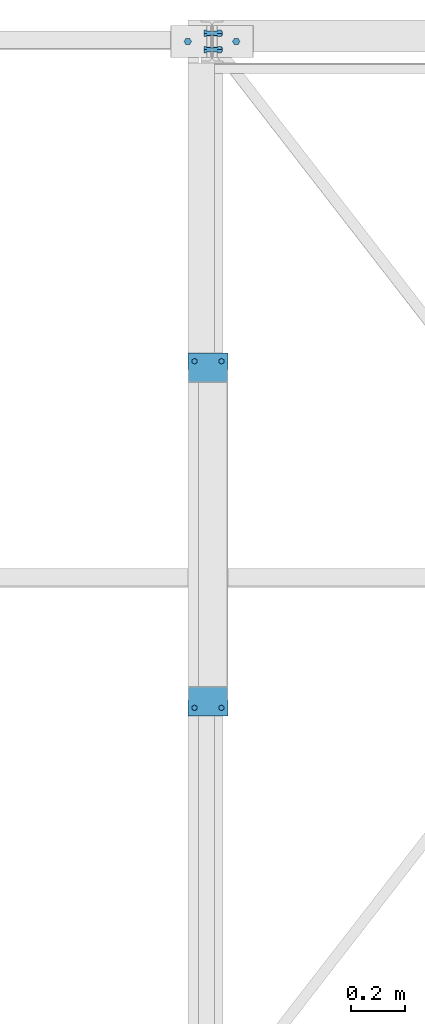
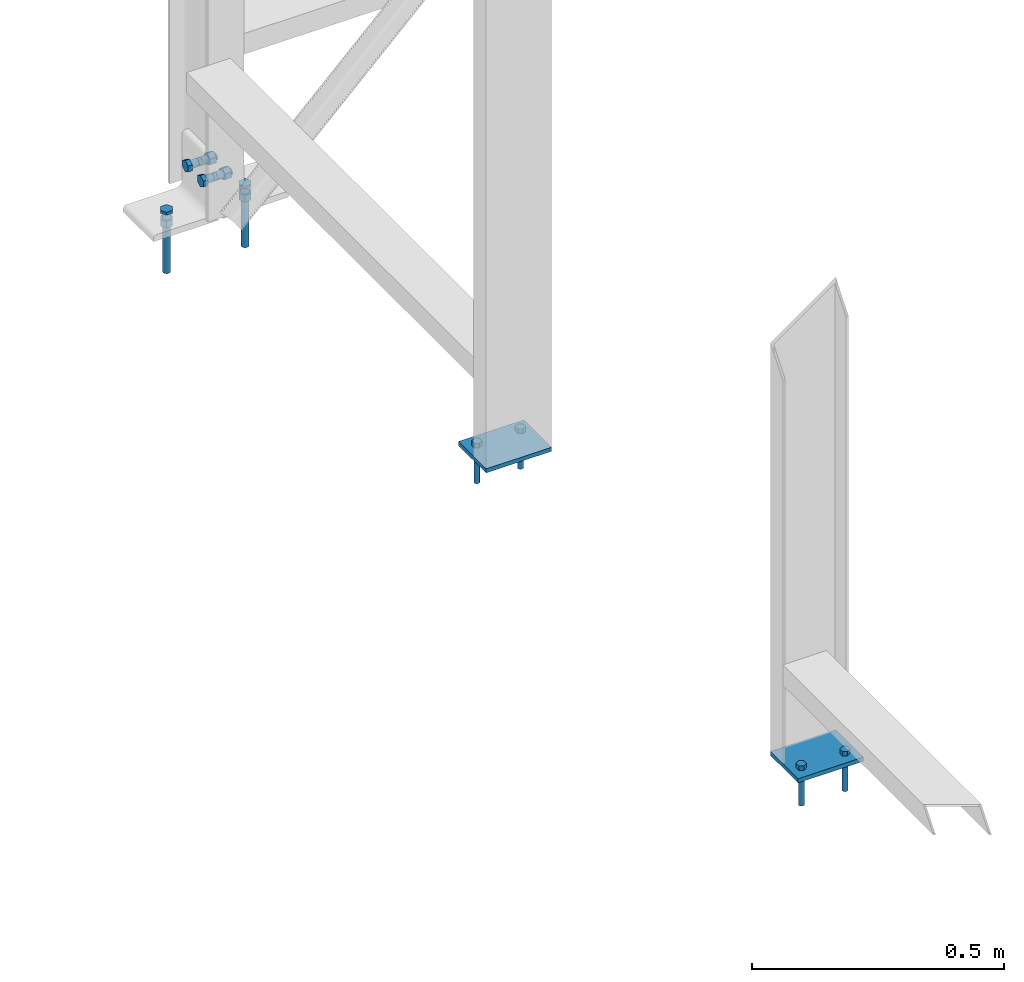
# One storey, part 85 of 123: 5 mechanical fasteners, 2 discrete accessories, 4 elements without a shape of their own.
"""IFC2X3 building model written with IfcOpenShell, lengths in millimetres."""

from ifc_helpers import new_model, si_unit, frame, origin_with_axes, origin_2d_with_axis, place, context, subcontext, project, spatial, polyline, circle, outline, extrude, source, transform, mapped, material, type_object, element, aggregate, save


model = new_model("IFC2X3")

# Units and contexts
model_context = context("Model", 3, precision=1e-05, world=origin_with_axes())
body_context = subcontext(model_context, "Body", "Model", "MODEL_VIEW")
ifc_project = project(units=[si_unit("LENGTHUNIT", "METRE", prefix="MILLI"), si_unit("AREAUNIT", "SQUARE_METRE"), si_unit("VOLUMEUNIT", "CUBIC_METRE"), si_unit("MASSUNIT", "GRAM", prefix="KILO"), si_unit("TIMEUNIT", "SECOND"), si_unit("PLANEANGLEUNIT", "RADIAN"), si_unit("SOLIDANGLEUNIT", "STERADIAN"), si_unit("THERMODYNAMICTEMPERATUREUNIT", "DEGREE_CELSIUS"), si_unit("LUMINOUSINTENSITYUNIT", "LUMEN")], contexts=[model_context])

# Site, building, storey
site_placement = place(None, origin_with_axes())
site = spatial("IfcSite", under=ifc_project, at=site_placement, Name="Undefined", CompositionType="ELEMENT")
building_placement = place(site_placement, origin_with_axes())
building = spatial("IfcBuilding", under=site, at=building_placement, Name="Undefined", CompositionType="ELEMENT")
storey_placement = place(building_placement, origin_with_axes())
storey = spatial("IfcBuildingStorey", under=building, at=storey_placement, Name="Undefined", CompositionType="ELEMENT", Elevation=0.0)

# Assembly, discrete accessory
assembly_1_placement = place(storey_placement, origin_with_axes())
assembly_1 = element("IfcElementAssembly", 1, at=assembly_1_placement, inside=storey, Name="Steel Assembly", AssemblyPlace="NOTDEFINED", PredefinedType="RIGID_FRAME")
ifc_material_1 = material(Name="STEEL/S235-E24")
discrete_accessory_type_1 = type_object("IfcDiscreteAccessoryType", Name="PLATINE")
discrete_accessory_1_placement = place(assembly_1_placement, frame((28914.9999688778, 27970.0000146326, -95.0), z_axis=(0.0, 0.0, -1.0), x_axis=(0.0, 1.0, 0.0)))
discrete_accessory_1 = element("IfcDiscreteAccessory", 2, at=discrete_accessory_1_placement, type_object=discrete_accessory_type_1, material=ifc_material_1, Name="PLATINE", ObjectType="PL10*150", context=body_context, shape_type="SweptSolid", body=[
    extrude(outline(polyline([(0.0, -75.0), (0.0, 75.0), (110.0, 75.0), (110.0, -75.0), (0.0, -75.0)])), frame((0.0, 0.0, -5.0), z_axis=(0.0, 0.0, 1.0), x_axis=(1.0, 0.0, 0.0)), (0.0, 0.0, 1.0), 10.0),
])

assembly_2_placement = place(storey_placement, origin_with_axes())
assembly_2 = element("IfcElementAssembly", 3, at=assembly_2_placement, inside=storey, Name="Steel Assembly", AssemblyPlace="NOTDEFINED", PredefinedType="RIGID_FRAME")
discrete_accessory_2_placement = place(assembly_2_placement, frame((28914.9999688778, 26840.0000217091, -95.0), z_axis=(0.0, 0.0, 1.0), x_axis=(0.0, -1.0, 0.0)))
discrete_accessory_2 = element("IfcDiscreteAccessory", 4, at=discrete_accessory_2_placement, type_object=discrete_accessory_type_1, material=ifc_material_1, Name="PLATINE", ObjectType="PL10*150", context=body_context, shape_type="SweptSolid", body=[
    extrude(outline(polyline([(110.0, -75.0), (0.0, -75.0), (0.0, 75.0), (110.0, 75.0), (110.0, -75.0)])), frame((0.0, 0.0, -5.0), z_axis=(0.0, 0.0, 1.0), x_axis=(1.0, 0.0, 0.0)), (0.0, 0.0, 1.0), 10.0),
])

# Mechanical fastener
ifc_material_2 = material(Name="INOX_A4")
discrete_accessory_type_2 = type_object("IfcDiscreteAccessoryType", Name="Bolt assembly")
shared_shape_1 = source(origin_with_axes(), body_context, "Body", "SweptSolid", [
    extrude(circle(Radius=7.0, at=origin_2d_with_axis()), frame((0.0, -10.0, 0.0), z_axis=(0.0, 1.0, 0.0), x_axis=(1.0, 0.0, 0.0)), (0.0, 0.0, 1.0), 10.1),
    extrude(outline(polyline([(10.39230484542, 0.0), (5.19615242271, 9.00000000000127), (-5.19615242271, 9.00000000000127), (-10.39230484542, 0.0), (-5.19615242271, -9.00000000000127), (5.19615242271, -9.00000000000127), (10.39230484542, 0.0)])), frame((0.0, -20.8000001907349, 0.0), z_axis=(0.0, 1.0, 0.0), x_axis=(1.0, 0.0, 0.0)), (0.0, 0.0, 1.0), 10.8),
    extrude(circle(Radius=6.0, at=origin_2d_with_axis()), frame((0.0, -10.0, 0.0), z_axis=(0.0, 1.0, 0.0), x_axis=(1.0, 0.0, 0.0)), (0.0, 0.0, 1.0), 89.2),
    extrude(outline(polyline([(10.96965511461, 0.0), (5.484827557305, 9.50000000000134), (-5.484827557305, 9.50000000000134), (-10.96965511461, 0.0), (-5.484827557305, -9.50000000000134), (5.484827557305, -9.50000000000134), (10.96965511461, 0.0)])), frame((0.0, 0.0, 0.0), z_axis=(0.0, 1.0, 0.0), x_axis=(1.0, 0.0, 0.0)), (0.0, 0.0, 1.0), 12.0),
])
mechanical_fastener_1_placement = place(assembly_1_placement, frame((28914.9999688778, 28050.0000146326, -100.0), z_axis=(1.0, 0.0, 0.0), x_axis=(0.0, -1.0, 0.0)))
mechanical_fastener_1 = element("IfcMechanicalFastener", 5, at=mechanical_fastener_1_placement, type_object=discrete_accessory_type_2, material=ifc_material_2, Name="Bolt assembly", NominalDiameter=12.0, NominalLength=89.1999969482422, context=body_context, shape_type="MappedRepresentation", body=[
    mapped(shared_shape_1, transform((0.0, 0.0, 50.0))),
    mapped(shared_shape_1, transform((0.0, 0.0, -50.0))),
])

aggregate(assembly_1, [mechanical_fastener_1, discrete_accessory_1])

mechanical_fastener_2_placement = place(assembly_2_placement, frame((28914.9999688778, 26760.0000217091, -100.0), z_axis=(-1.0, 0.0, 0.0), x_axis=(0.0, 1.0, 0.0)))
mechanical_fastener_2 = element("IfcMechanicalFastener", 6, at=mechanical_fastener_2_placement, type_object=discrete_accessory_type_2, material=ifc_material_2, Name="Bolt assembly", NominalDiameter=12.0, NominalLength=89.1999969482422, context=body_context, shape_type="MappedRepresentation", body=[
    mapped(shared_shape_1, transform((0.0, 0.0, -50.0))),
    mapped(shared_shape_1, transform((0.0, 0.0, 50.0))),
])

aggregate(assembly_2, [mechanical_fastener_2, discrete_accessory_2])

# Assembly, mechanical fastener
assembly_3_placement = place(storey_placement, origin_with_axes())
assembly_3 = element("IfcElementAssembly", 7, at=assembly_3_placement, inside=storey, Name="Steel Assembly", AssemblyPlace="NOTDEFINED", PredefinedType="RIGID_FRAME")
shared_shape_2 = source(origin_with_axes(), body_context, "Body", "SweptSolid", [
    extrude(circle(Radius=9.0, at=origin_2d_with_axis()), frame((0.0, -15.0, 0.0), z_axis=(0.0, 1.0, 0.0), x_axis=(1.0, 0.0, 0.0)), (0.0, 0.0, 1.0), 15.1),
    extrude(outline(polyline([(13.85640646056, 0.0), (6.92820323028, 12.0000000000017), (-6.92820323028, 12.0000000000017), (-13.85640646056, 0.0), (-6.92820323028, -12.0000000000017), (6.92820323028, -12.0000000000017), (13.85640646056, 0.0)])), frame((0.0, -21.8000001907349, 0.0), z_axis=(0.0, 1.0, 0.0), x_axis=(1.0, 0.0, 0.0)), (0.0, 0.0, 1.0), 6.8),
    extrude(circle(Radius=8.0, at=origin_2d_with_axis()), frame((0.0, -15.0, 0.0), z_axis=(0.0, 1.0, 0.0), x_axis=(1.0, 0.0, 0.0)), (0.0, 0.0, 1.0), 146.2),
    extrude(outline(polyline([(13.85640646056, 0.0), (6.92820323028, 12.0000000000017), (-6.92820323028, 12.0000000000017), (-13.85640646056, 0.0), (-6.92820323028, -12.0000000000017), (6.92820323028, -12.0000000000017), (13.85640646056, 0.0)])), frame((0.0, 0.0, 0.0), z_axis=(0.0, 1.0, 0.0), x_axis=(1.0, 0.0, 0.0)), (0.0, 0.0, 1.0), 16.0),
])
mechanical_fastener_3_placement = place(assembly_3_placement, frame((28840.0000297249, 29239.9999987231, -250.0), z_axis=(0.0, 1.0, 0.0), x_axis=(1.0, 0.0, 0.0)))
mechanical_fastener_3 = element("IfcMechanicalFastener", 8, at=mechanical_fastener_3_placement, type_object=discrete_accessory_type_2, material=ifc_material_2, Name="Bolt assembly", NominalDiameter=16.0, NominalLength=146.199996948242, context=body_context, shape_type="MappedRepresentation", body=[
    mapped(shared_shape_2, transform((0.0, 0.0, 0.0))),
])

assembly_4_placement = place(storey_placement, origin_with_axes())
assembly_4 = element("IfcElementAssembly", 9, at=assembly_4_placement, inside=storey, Name="Steel Assembly", AssemblyPlace="NOTDEFINED", PredefinedType="RIGID_FRAME")
mechanical_fastener_4_placement = place(assembly_4_placement, frame((29019.9999702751, 29239.9999987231, -250.0), z_axis=(0.0, -1.0, 0.0), x_axis=(-1.0, 0.0, 0.0)))
mechanical_fastener_4 = element("IfcMechanicalFastener", 10, at=mechanical_fastener_4_placement, type_object=discrete_accessory_type_2, material=ifc_material_2, Name="Bolt assembly", NominalDiameter=16.0, NominalLength=146.199996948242, context=body_context, shape_type="MappedRepresentation", body=[
    mapped(shared_shape_2, transform((0.0, 0.0, 0.0))),
])
aggregate(assembly_4, [mechanical_fastener_4])

# Mechanical fastener
ifc_material_3 = material(Name="8.8-G")
shared_shape_3 = source(origin_with_axes(), body_context, "Body", "SweptSolid", [
    extrude(circle(Radius=9.0, at=origin_2d_with_axis()), frame((0.0, -2.50006083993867, 0.0), z_axis=(0.0, 1.0, 0.0), x_axis=(1.0, 0.0, 0.0)), (0.0, 0.0, 1.0), 5.0),
    extrude(circle(Radius=9.0, at=origin_2d_with_axis()), frame((0.0, -19.9, 0.0), z_axis=(0.0, 1.0, 0.0), x_axis=(1.0, 0.0, 0.0)), (0.0, 0.0, 1.0), 15.0),
    extrude(circle(Radius=9.0, at=origin_2d_with_axis()), frame((0.0, 4.89994055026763, 0.0), z_axis=(0.0, 1.0, 0.0), x_axis=(1.0, 0.0, 0.0)), (0.0, 0.0, 1.0), 15.1),
    extrude(outline(polyline([(13.85640646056, 0.0), (6.92820323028, 12.0000000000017), (-6.92820323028, 12.0000000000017), (-13.85640646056, 0.0), (-6.92820323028, -12.0000000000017), (6.92820323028, -12.0000000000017), (13.85640646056, 0.0)])), frame((0.0, -30.0, 0.0), z_axis=(0.0, 1.0, 0.0), x_axis=(1.0, 0.0, 0.0)), (0.0, 0.0, 1.0), 10.0),
    extrude(circle(Radius=8.0, at=origin_2d_with_axis()), frame((0.0, -20.0, 0.0), z_axis=(0.0, 1.0, 0.0), x_axis=(1.0, 0.0, 0.0)), (0.0, 0.0, 1.0), 60.0),
    extrude(outline(polyline([(13.85640646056, 0.0), (6.92820323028, 12.0000000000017), (-6.92820323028, 12.0000000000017), (-13.85640646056, 0.0), (-6.92820323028, -12.0000000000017), (6.92820323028, -12.0000000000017), (13.85640646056, 0.0)])), frame((0.0, 19.9999405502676, 0.0), z_axis=(0.0, 1.0, 0.0), x_axis=(1.0, 0.0, 0.0)), (0.0, 0.0, 1.0), 14.8),
])
mechanical_fastener_5_placement = place(assembly_3_placement, frame((28930.0000297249, 29239.9999987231, -165.0), z_axis=(0.0, -1.0, 0.0), x_axis=(0.0, 0.0, -1.0)))
mechanical_fastener_5 = element("IfcMechanicalFastener", 11, at=mechanical_fastener_5_placement, type_object=discrete_accessory_type_2, material=ifc_material_3, Name="Bolt assembly", NominalDiameter=16.0, NominalLength=60.0, context=body_context, shape_type="MappedRepresentation", body=[
    mapped(shared_shape_3, transform((0.0, 0.0, 30.0))),
    mapped(shared_shape_3, transform((0.0, 0.0, -30.0))),
])

aggregate(assembly_3, [mechanical_fastener_3, mechanical_fastener_5])

save(model, "model.ifc")
